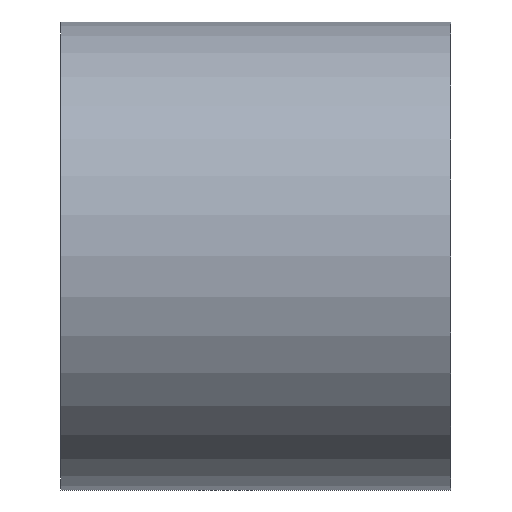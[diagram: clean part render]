
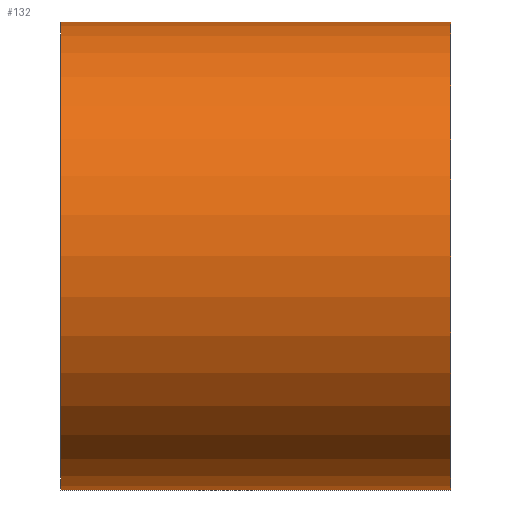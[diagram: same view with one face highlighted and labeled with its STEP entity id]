
A CAD part, front view. The second image highlights one B-rep face of the part: STEP entity #132.
In plain terms, the highlighted cylindrical face has radius 600 mm (diameter 1200 mm), a partial arc.
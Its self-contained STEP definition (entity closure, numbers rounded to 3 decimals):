
#132=ADVANCED_FACE('',(#260),#261,.T.);
#260=FACE_OUTER_BOUND('',#415,.T.);
#261=CYLINDRICAL_SURFACE('',#416,600.0);
#415=EDGE_LOOP('',(#739,#740,#741,#742));
#416=AXIS2_PLACEMENT_3D('',#743,#744,#745);
#739=ORIENTED_EDGE('',*,*,#827,.T.);
#740=ORIENTED_EDGE('',*,*,#968,.F.);
#741=ORIENTED_EDGE('',*,*,#829,.T.);
#742=ORIENTED_EDGE('',*,*,#969,.F.);
#743=CARTESIAN_POINT('',(0.0,0.0,0.0));
#744=DIRECTION('',(1.0,0.0,0.0));
#745=DIRECTION('',(0.0,0.0,-1.0));
#827=EDGE_CURVE('',#973,#974,#975,.T.);
#829=EDGE_CURVE('',#978,#976,#979,.T.);
#968=EDGE_CURVE('',#978,#974,#1186,.T.);
#969=EDGE_CURVE('',#973,#976,#1187,.T.);
#973=VERTEX_POINT('',#1191);
#974=VERTEX_POINT('',#1192);
#975=LINE('',#1193,#1194);
#976=VERTEX_POINT('',#1195);
#978=VERTEX_POINT('',#1197);
#979=LINE('',#1198,#1199);
#1186=CIRCLE('',#1440,600.0);
#1187=CIRCLE('',#1441,600.0);
#1191=CARTESIAN_POINT('',(-500.0,0.0,-600.0));
#1192=CARTESIAN_POINT('',(500.0,0.0,-600.0));
#1193=CARTESIAN_POINT('',(0.0,0.,-600.0));
#1194=VECTOR('',#1444,1.0);
#1195=CARTESIAN_POINT('',(-500.0,0.,600.0));
#1197=CARTESIAN_POINT('',(500.0,0.,600.0));
#1198=CARTESIAN_POINT('',(0.0,0.,600.0));
#1199=VECTOR('',#1448,1.0);
#1440=AXIS2_PLACEMENT_3D('',#1690,#1691,#1692);
#1441=AXIS2_PLACEMENT_3D('',#1693,#1694,#1695);
#1444=DIRECTION('',(1.0,0.0,0.0));
#1448=DIRECTION('',(-1.0,-0.0,-0.0));
#1690=CARTESIAN_POINT('',(500.0,0.0,0.0));
#1691=DIRECTION('',(1.0,0.0,0.0));
#1692=DIRECTION('',(0.0,0.0,-1.0));
#1693=CARTESIAN_POINT('',(-500.0,0.0,0.0));
#1694=DIRECTION('',(-1.0,0.0,0.0));
#1695=DIRECTION('',(0.0,0.0,-1.0));
